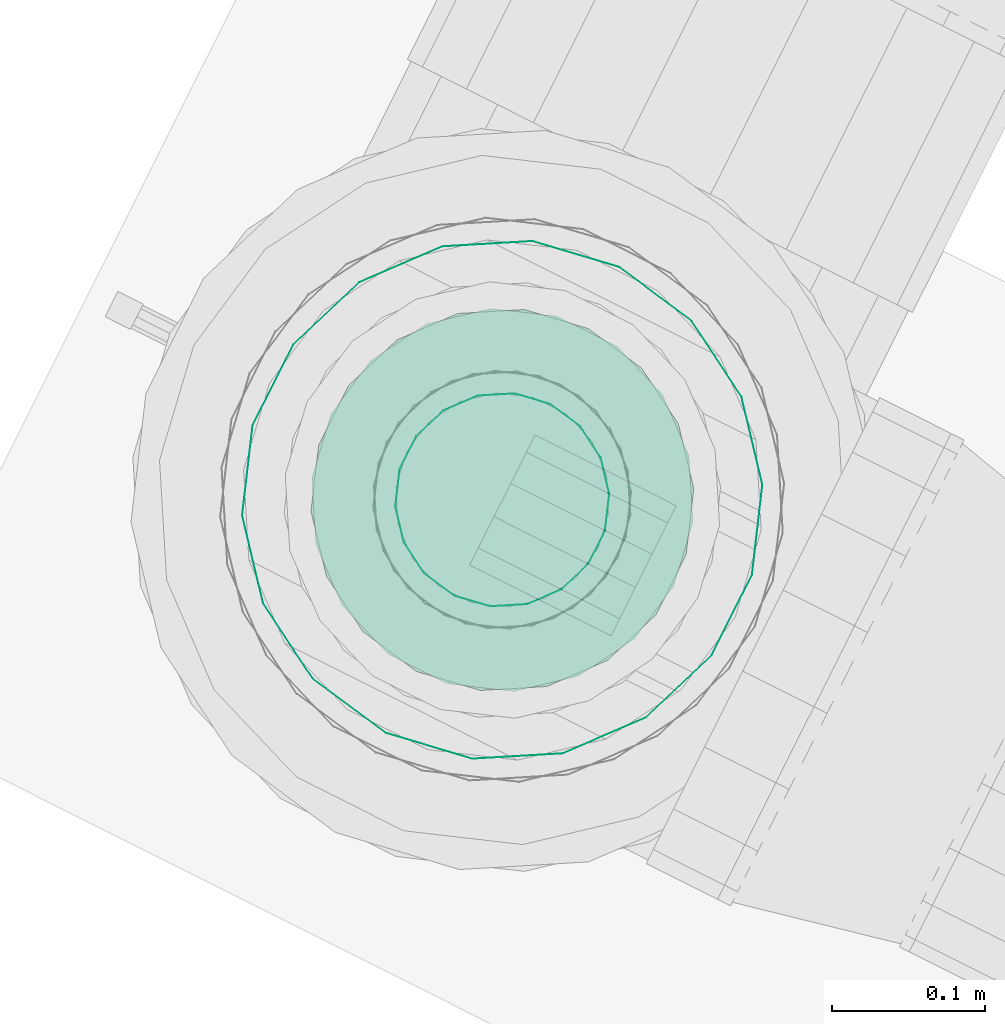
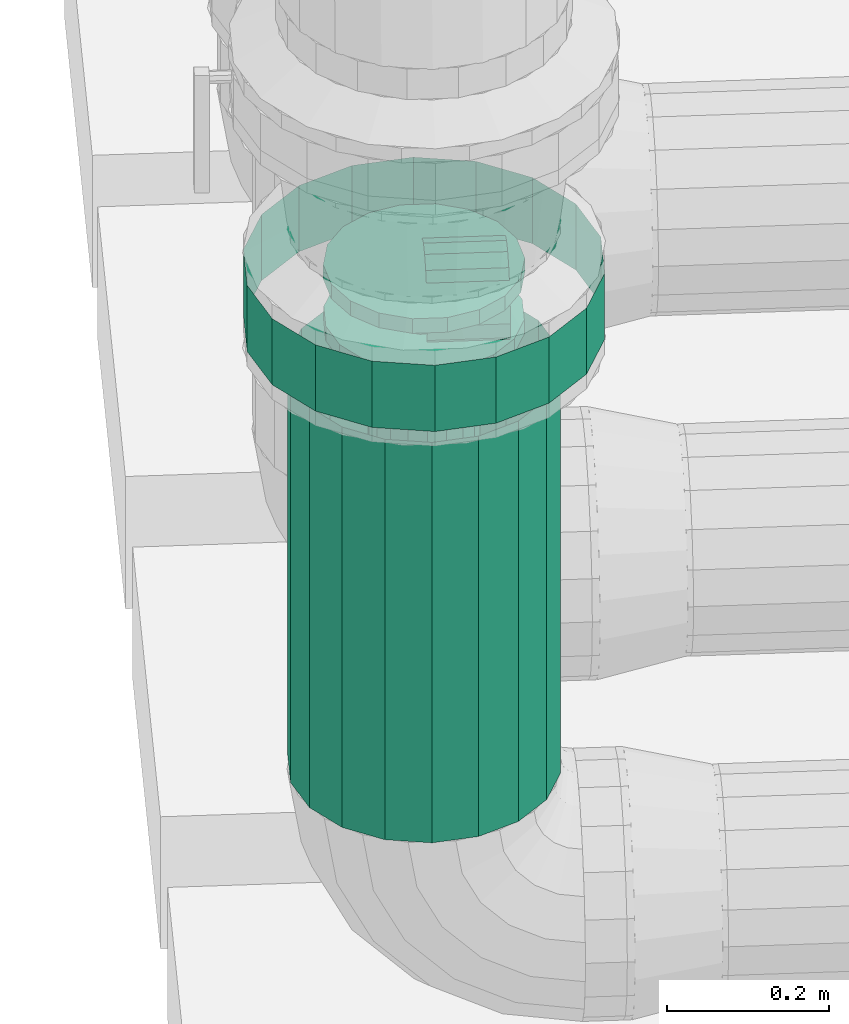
# One storey, part 97 of 152: 1 flow controller, 1 flow segment.
"""IFC2X3 building model written with IfcOpenShell, lengths in metres."""

from ifc_helpers import new_model, si_unit, derived_unit, direction, frame, origin, place, context, subcontext, project, spatial, face_set, surface_model, source, transform, mapped, material, type_object, type_shapes, element, save


model = new_model("IFC2X3")

# Units and contexts
model_context = context("Model", 3, precision=5.2338327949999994e-05, world=origin(), true_north=direction((0.0, 1.0)))
body_context = subcontext(model_context, "Body", "Model", "MODEL_VIEW")
ifc_project = project(units=[si_unit("LENGTHUNIT", "METRE"), si_unit("AREAUNIT", "SQUARE_METRE"), si_unit("VOLUMEUNIT", "CUBIC_METRE"), si_unit("MASSUNIT", "GRAM", prefix="KILO"), si_unit("PLANEANGLEUNIT", "RADIAN"), derived_unit("THERMALTRANSMITTANCEUNIT", [(si_unit("MASSUNIT", "GRAM", prefix="KILO"), 1), (si_unit("THERMODYNAMICTEMPERATUREUNIT", "KELVIN"), -1), (si_unit("TIMEUNIT", "SECOND"), -3)])], contexts=[model_context])

# Site, building, storey
site_placement = place(None, frame((0.0, 0.0, 0.0), z_axis=(0.0, 0.0, 1.0), x_axis=(0.8939966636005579, -0.4480736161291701, 0.0)))
site = spatial("IfcSite", under=ifc_project, at=site_placement, Name="Default", CompositionType="ELEMENT")
building_placement = place(site_placement, origin())
building = spatial("IfcBuilding", under=site, at=building_placement, CompositionType="ELEMENT")
storey_placement = place(building_placement, frame((0.0, 0.0, 2.7499999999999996)))
storey = spatial("IfcBuildingStorey", under=building, at=storey_placement, Name="1. Obergeschoss", CompositionType="ELEMENT", Elevation=2.7499999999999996)

# Flow controller
ifc_material = material(Name="IfcSurfaceStyle #9317")
distribution_element_type_1 = type_object("IfcDistributionElementType", Name="Rückschlagklappe 237093:Rückschlagklappe 237093", material=ifc_material)
shared_shape_1 = source(origin(), body_context, "Body", "SurfaceModel", [
    surface_model("IfcFaceBasedSurfaceModel", [(9.625770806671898, 5.981787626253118, 4.175071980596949), (9.583018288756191, 5.974249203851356, 4.175071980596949), (9.583018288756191, 5.974249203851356, 4.1970719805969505), (9.625770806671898, 5.981787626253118, 4.1970719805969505), (9.545422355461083, 5.952543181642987, 4.175071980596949), (9.545422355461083, 5.952543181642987, 4.1970719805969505), (9.517517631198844, 5.919287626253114, 4.175071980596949), (9.517517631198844, 5.919287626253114, 4.1970719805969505), (9.502669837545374, 5.87849364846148, 4.175071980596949), (9.502669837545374, 5.87849364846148, 4.1970719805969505), (9.502669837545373, 5.8350816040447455, 4.175071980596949), (9.502669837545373, 5.8350816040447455, 4.1970719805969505), (9.517517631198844, 5.794287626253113, 4.175071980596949), (9.517517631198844, 5.794287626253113, 4.1970719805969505), (9.545422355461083, 5.7610320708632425, 4.175071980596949), (9.545422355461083, 5.7610320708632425, 4.1970719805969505), (9.583018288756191, 5.739326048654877, 4.175071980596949), (9.583018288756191, 5.739326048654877, 4.1970719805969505), (9.6257708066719, 5.7317876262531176, 4.175071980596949), (9.6257708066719, 5.7317876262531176, 4.1970719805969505), (9.668523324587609, 5.73932604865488, 4.175071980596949), (9.668523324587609, 5.73932604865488, 4.1970719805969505), (9.706119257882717, 5.761032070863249, 4.175071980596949), (9.706119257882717, 5.761032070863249, 4.1970719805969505), (9.734023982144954, 5.794287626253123, 4.175071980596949), (9.734023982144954, 5.794287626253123, 4.1970719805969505), (9.748871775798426, 5.835081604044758, 4.175071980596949), (9.748871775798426, 5.835081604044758, 4.1970719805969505), (9.748871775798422, 5.8784936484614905, 4.175071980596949), (9.748871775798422, 5.8784936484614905, 4.1970719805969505), (9.734023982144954, 5.919287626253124, 4.175071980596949), (9.734023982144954, 5.919287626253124, 4.1970719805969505), (9.706119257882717, 5.952543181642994, 4.175071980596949), (9.706119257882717, 5.952543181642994, 4.1970719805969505), (9.66852332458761, 5.97424920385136, 4.175071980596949), (9.66852332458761, 5.97424920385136, 4.1970719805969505), (9.625770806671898, 5.856787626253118, 4.175071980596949), (9.625770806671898, 5.856787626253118, 4.19707198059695), (9.579204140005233, 5.8567876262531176, 4.1970719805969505), (9.582012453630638, 5.840860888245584, 4.1970719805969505), (9.560133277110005, 5.832897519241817, 4.215738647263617), (9.5559208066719, 5.856787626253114, 4.215738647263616), (9.590098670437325, 5.826855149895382, 4.19707198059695), (9.572262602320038, 5.811888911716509, 4.215738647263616), (9.602487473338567, 5.81645970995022, 4.1970719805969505), (9.5908458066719, 5.796295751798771, 4.215738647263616), (9.61768458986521, 5.810928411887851, 4.1970719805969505), (9.613641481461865, 5.7879988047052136, 4.215738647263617), (9.633857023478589, 5.810928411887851, 4.1970719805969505), (9.637900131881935, 5.7879988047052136, 4.215738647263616), (9.649054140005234, 5.816459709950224, 4.1970719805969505), (9.6606958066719, 5.796295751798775, 4.215738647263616), (9.661442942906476, 5.826855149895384, 4.1970719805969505), (9.67927901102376, 5.811888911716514, 4.215738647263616), (9.669529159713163, 5.840860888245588, 4.1970719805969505), (9.691408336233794, 5.832897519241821, 4.215738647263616), (9.672337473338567, 5.856787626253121, 4.1970719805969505), (9.6956208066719, 5.856787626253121, 4.215738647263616), (9.669529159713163, 5.872714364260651, 4.1970719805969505), (9.691408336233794, 5.880677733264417, 4.215738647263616), (9.661442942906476, 5.886720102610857, 4.19707198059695), (9.67927901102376, 5.901686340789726, 4.215738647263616), (9.649054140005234, 5.897115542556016, 4.19707198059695), (9.660695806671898, 5.917279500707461, 4.215738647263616), (9.633857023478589, 5.902646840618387, 4.1970719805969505), (9.637900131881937, 5.925576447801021, 4.215738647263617), (9.617684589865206, 5.902646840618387, 4.1970719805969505), (9.613641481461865, 5.925576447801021, 4.215738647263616), (9.602487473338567, 5.897115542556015, 4.19707198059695), (9.590845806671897, 5.9172795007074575, 4.215738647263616), (9.590098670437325, 5.8867201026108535, 4.19707198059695), (9.572262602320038, 5.901686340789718, 4.215738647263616), (9.582012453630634, 5.872714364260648, 4.1970719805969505), (9.560133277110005, 5.8806777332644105, 4.215738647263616), (9.6257708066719, 5.926637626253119, 4.215738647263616), (9.601880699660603, 5.922425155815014, 4.215738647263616), (9.601880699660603, 5.922425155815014, 4.234405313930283), (9.6257708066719, 5.926637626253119, 4.234405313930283), (9.580872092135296, 5.910295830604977, 4.215738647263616), (9.580872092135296, 5.910295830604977, 4.234405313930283), (9.565278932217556, 5.891712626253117, 4.215738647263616), (9.565278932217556, 5.891712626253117, 4.234405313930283), (9.556981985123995, 5.868916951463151, 4.215738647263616), (9.556981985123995, 5.868916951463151, 4.234405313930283), (9.556981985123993, 5.84465830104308, 4.215738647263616), (9.556981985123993, 5.84465830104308, 4.234405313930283), (9.565278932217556, 5.8218626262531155, 4.215738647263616), (9.565278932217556, 5.8218626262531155, 4.234405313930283), (9.580872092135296, 5.803279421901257, 4.215738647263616), (9.580872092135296, 5.803279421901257, 4.234405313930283), (9.601880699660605, 5.791150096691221, 4.215738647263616), (9.601880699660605, 5.791150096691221, 4.234405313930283), (9.6257708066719, 5.786937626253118, 4.215738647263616), (9.6257708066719, 5.786937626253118, 4.234405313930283), (9.6496609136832, 5.791150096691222, 4.215738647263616), (9.6496609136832, 5.791150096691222, 4.234405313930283), (9.670669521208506, 5.80327942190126, 4.215738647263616), (9.670669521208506, 5.80327942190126, 4.234405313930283), (9.68626268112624, 5.821862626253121, 4.215738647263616), (9.68626268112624, 5.821862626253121, 4.234405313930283), (9.694559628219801, 5.8446583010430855, 4.215738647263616), (9.694559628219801, 5.8446583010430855, 4.234405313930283), (9.694559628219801, 5.868916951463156, 4.215738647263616), (9.694559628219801, 5.868916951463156, 4.234405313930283), (9.686262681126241, 5.891712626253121, 4.215738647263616), (9.686262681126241, 5.891712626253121, 4.234405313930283), (9.670669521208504, 5.910295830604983, 4.215738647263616), (9.670669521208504, 5.910295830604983, 4.234405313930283), (9.6496609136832, 5.922425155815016, 4.215738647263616), (9.6496609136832, 5.922425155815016, 4.234405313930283), (9.5559208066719, 5.856787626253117, 4.234405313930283), (9.560133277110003, 5.832897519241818, 4.234405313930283), (9.582012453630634, 5.840860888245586, 4.253071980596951), (9.579204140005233, 5.8567876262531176, 4.253071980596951), (9.572262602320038, 5.81188891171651, 4.234405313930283), (9.590098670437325, 5.826855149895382, 4.253071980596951), (9.5908458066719, 5.796295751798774, 4.234405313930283), (9.602487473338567, 5.81645970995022, 4.253071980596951), (9.613641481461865, 5.787998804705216, 4.234405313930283), (9.61768458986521, 5.810928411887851, 4.2530719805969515), (9.637900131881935, 5.787998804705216, 4.234405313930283), (9.633857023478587, 5.810928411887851, 4.253071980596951), (9.6606958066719, 5.796295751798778, 4.234405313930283), (9.649054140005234, 5.816459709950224, 4.253071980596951), (9.67927901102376, 5.811888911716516, 4.234405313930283), (9.661442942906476, 5.826855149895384, 4.253071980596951), (9.691408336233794, 5.832897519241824, 4.234405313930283), (9.669529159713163, 5.840860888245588, 4.253071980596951), (9.695620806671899, 5.856787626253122, 4.234405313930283), (9.672337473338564, 5.856787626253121, 4.2530719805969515), (9.691408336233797, 5.88067773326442, 4.234405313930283), (9.669529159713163, 5.872714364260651, 4.2530719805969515), (9.67927901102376, 5.901686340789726, 4.234405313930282), (9.661442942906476, 5.886720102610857, 4.25307198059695), (9.660695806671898, 5.917279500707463, 4.234405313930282), (9.649054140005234, 5.897115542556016, 4.25307198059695), (9.637900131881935, 5.9255764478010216, 4.234405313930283), (9.633857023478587, 5.902646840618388, 4.2530719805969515), (9.613641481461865, 5.9255764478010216, 4.234405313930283), (9.617684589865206, 5.902646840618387, 4.253071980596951), (9.590845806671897, 5.91727950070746, 4.234405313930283), (9.602487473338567, 5.897115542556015, 4.2530719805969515), (9.572262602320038, 5.901686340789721, 4.234405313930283), (9.590098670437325, 5.8867201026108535, 4.253071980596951), (9.560133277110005, 5.880677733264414, 4.234405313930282), (9.582012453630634, 5.8727143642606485, 4.25307198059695), (9.6257708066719, 5.926637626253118, 4.22507198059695), (9.6257708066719, 5.922425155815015, 4.248962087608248), (9.728770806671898, 5.92242515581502, 4.248962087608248), (9.728770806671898, 5.9266376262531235, 4.22507198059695), (9.625770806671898, 5.910295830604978, 4.269970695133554), (9.728770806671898, 5.910295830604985, 4.269970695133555), (9.625770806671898, 5.89171262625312, 4.285563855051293), (9.728770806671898, 5.891712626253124, 4.285563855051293), (9.6257708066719, 5.868916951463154, 4.293860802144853), (9.728770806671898, 5.8689169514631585, 4.293860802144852), (9.625770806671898, 5.844658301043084, 4.293860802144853), (9.728770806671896, 5.844658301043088, 4.293860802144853), (9.6257708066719, 5.821862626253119, 4.285563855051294), (9.728770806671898, 5.8218626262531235, 4.285563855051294), (9.625770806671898, 5.803279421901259, 4.269970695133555), (9.728770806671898, 5.803279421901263, 4.269970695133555), (9.625770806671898, 5.791150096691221, 4.248962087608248), (9.728770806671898, 5.791150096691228, 4.248962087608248), (9.6257708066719, 5.786937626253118, 4.22507198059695), (9.728770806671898, 5.786937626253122, 4.22507198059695), (9.625770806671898, 5.791150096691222, 4.201181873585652), (9.728770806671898, 5.791150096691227, 4.201181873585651), (9.625770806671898, 5.80327942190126, 4.180173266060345), (9.728770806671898, 5.803279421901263, 4.180173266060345), (9.6257708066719, 5.821862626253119, 4.164580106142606), (9.728770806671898, 5.8218626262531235, 4.164580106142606), (9.625770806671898, 5.844658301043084, 4.156283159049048), (9.728770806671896, 5.844658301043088, 4.156283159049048), (9.6257708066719, 5.868916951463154, 4.156283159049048), (9.728770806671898, 5.8689169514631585, 4.156283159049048), (9.625770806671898, 5.89171262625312, 4.164580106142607), (9.728770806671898, 5.891712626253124, 4.164580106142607), (9.625770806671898, 5.910295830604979, 4.180173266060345), (9.728770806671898, 5.910295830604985, 4.180173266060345), (9.6257708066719, 5.922425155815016, 4.201181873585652), (9.728770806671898, 5.92242515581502, 4.201181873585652), (9.728770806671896, 5.856787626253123, 4.22507198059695), (9.750770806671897, 5.856787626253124, 4.25307198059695), (9.743232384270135, 5.899540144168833, 4.25307198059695), (9.743232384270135, 5.899540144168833, 4.27507198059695), (9.750770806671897, 5.856787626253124, 4.27507198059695), (9.72152636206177, 5.937136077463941, 4.25307198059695), (9.72152636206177, 5.937136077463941, 4.27507198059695), (9.688270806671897, 5.965040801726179, 4.25307198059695), (9.688270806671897, 5.965040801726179, 4.27507198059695), (9.647476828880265, 5.979888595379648, 4.25307198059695), (9.647476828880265, 5.979888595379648, 4.27507198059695), (9.604064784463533, 5.979888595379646, 4.25307198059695), (9.604064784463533, 5.979888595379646, 4.27507198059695), (9.5632708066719, 5.965040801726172, 4.25307198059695), (9.5632708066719, 5.965040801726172, 4.27507198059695), (9.530015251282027, 5.937136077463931, 4.25307198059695), (9.530015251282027, 5.937136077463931, 4.27507198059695), (9.508309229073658, 5.8995401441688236, 4.25307198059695), (9.508309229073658, 5.8995401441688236, 4.27507198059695), (9.5007708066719, 5.856787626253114, 4.25307198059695), (9.5007708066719, 5.856787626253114, 4.27507198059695), (9.508309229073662, 5.814035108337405, 4.25307198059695), (9.508309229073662, 5.814035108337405, 4.27507198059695), (9.530015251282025, 5.776439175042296, 4.25307198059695), (9.530015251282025, 5.776439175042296, 4.27507198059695), (9.5632708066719, 5.7485344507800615, 4.25307198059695), (9.5632708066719, 5.7485344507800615, 4.27507198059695), (9.604064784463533, 5.73368665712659, 4.25307198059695), (9.604064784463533, 5.73368665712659, 4.27507198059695), (9.647476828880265, 5.733686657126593, 4.25307198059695), (9.647476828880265, 5.733686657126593, 4.27507198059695), (9.6882708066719, 5.748534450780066, 4.25307198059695), (9.6882708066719, 5.748534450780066, 4.27507198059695), (9.72152636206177, 5.776439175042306, 4.25307198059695), (9.72152636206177, 5.776439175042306, 4.27507198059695), (9.743232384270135, 5.814035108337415, 4.25307198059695), (9.743232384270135, 5.814035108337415, 4.27507198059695), (9.625770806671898, 5.856787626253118, 4.25307198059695), (9.625770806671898, 5.856787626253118, 4.275071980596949), (9.625770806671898, 6.081787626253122, 4.175071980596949), (9.548816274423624, 6.068218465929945, 4.175071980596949), (9.548816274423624, 6.068218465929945, 4.27507198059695), (9.625770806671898, 6.081787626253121, 4.27507198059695), (9.481143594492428, 6.029147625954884, 4.175071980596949), (9.481143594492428, 6.029147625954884, 4.27507198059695), (9.4309150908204, 5.969287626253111, 4.175071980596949), (9.4309150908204, 5.969287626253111, 4.27507198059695), (9.404189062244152, 5.8958584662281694, 4.175071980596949), (9.404189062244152, 5.8958584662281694, 4.27507198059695), (9.404189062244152, 5.8177167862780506, 4.175071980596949), (9.404189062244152, 5.8177167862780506, 4.27507198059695), (9.430915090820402, 5.744287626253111, 4.175071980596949), (9.430915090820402, 5.744287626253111, 4.27507198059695), (9.481143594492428, 5.684427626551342, 4.175071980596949), (9.481143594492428, 5.684427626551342, 4.27507198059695), (9.548816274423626, 5.645356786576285, 4.175071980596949), (9.548816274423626, 5.645356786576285, 4.27507198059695), (9.6257708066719, 5.631787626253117, 4.175071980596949), (9.6257708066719, 5.631787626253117, 4.27507198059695), (9.702725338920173, 5.645356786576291, 4.175071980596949), (9.702725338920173, 5.645356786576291, 4.27507198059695), (9.770398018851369, 5.684427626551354, 4.175071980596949), (9.770398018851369, 5.684427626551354, 4.27507198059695), (9.820626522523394, 5.744287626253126, 4.175071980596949), (9.820626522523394, 5.744287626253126, 4.27507198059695), (9.847352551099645, 5.817716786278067, 4.175071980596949), (9.847352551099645, 5.817716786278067, 4.27507198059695), (9.847352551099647, 5.895858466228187, 4.175071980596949), (9.847352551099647, 5.895858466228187, 4.27507198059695), (9.820626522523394, 5.969287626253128, 4.175071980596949), (9.820626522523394, 5.969287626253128, 4.27507198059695), (9.77039801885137, 6.029147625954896, 4.175071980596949), (9.77039801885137, 6.029147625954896, 4.27507198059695), (9.702725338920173, 6.068218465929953, 4.175071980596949), (9.702725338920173, 6.068218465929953, 4.27507198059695)], [face_set([[[0, 1, 2, 3]], [[1, 4, 5, 2]], [[4, 6, 7, 5]], [[6, 8, 9, 7]], [[8, 10, 11, 9]], [[10, 12, 13, 11]], [[12, 14, 15, 13]], [[14, 16, 17, 15]], [[16, 18, 19, 17]], [[18, 20, 21, 19]], [[20, 22, 23, 21]], [[22, 24, 25, 23]], [[24, 26, 27, 25]], [[26, 28, 29, 27]], [[28, 30, 31, 29]], [[30, 32, 33, 31]], [[32, 34, 35, 33]], [[34, 0, 3, 35]], [[36, 1, 0]], [[36, 4, 1]], [[36, 6, 4]], [[36, 8, 6]], [[36, 10, 8]], [[36, 12, 10]], [[36, 14, 12]], [[36, 16, 14]], [[36, 18, 16]], [[36, 20, 18]], [[36, 22, 20]], [[36, 24, 22]], [[36, 26, 24]], [[36, 28, 26]], [[36, 30, 28]], [[36, 32, 30]], [[36, 34, 32]], [[36, 0, 34]], [[37, 35, 3]], [[37, 33, 35]], [[37, 31, 33]], [[37, 29, 31]], [[37, 27, 29]], [[37, 25, 27]], [[37, 23, 25]], [[37, 21, 23]], [[37, 19, 21]], [[37, 17, 19]], [[37, 15, 17]], [[37, 13, 15]], [[37, 11, 13]], [[37, 9, 11]], [[37, 7, 9]], [[37, 5, 7]], [[37, 2, 5]], [[37, 3, 2]], [[38, 39, 40, 41]], [[39, 42, 43, 40]], [[42, 44, 45, 43]], [[44, 46, 47, 45]], [[46, 48, 49, 47]], [[48, 50, 51, 49]], [[50, 52, 53, 51]], [[52, 54, 55, 53]], [[54, 56, 57, 55]], [[56, 58, 59, 57]], [[58, 60, 61, 59]], [[60, 62, 63, 61]], [[62, 64, 65, 63]], [[64, 66, 67, 65]], [[66, 68, 69, 67]], [[68, 70, 71, 69]], [[70, 72, 73, 71]], [[72, 38, 41, 73]], [[74, 75, 76, 77]], [[75, 78, 79, 76]], [[78, 80, 81, 79]], [[80, 82, 83, 81]], [[82, 84, 85, 83]], [[84, 86, 87, 85]], [[86, 88, 89, 87]], [[88, 90, 91, 89]], [[90, 92, 93, 91]], [[92, 94, 95, 93]], [[94, 96, 97, 95]], [[96, 98, 99, 97]], [[98, 100, 101, 99]], [[100, 102, 103, 101]], [[102, 104, 105, 103]], [[104, 106, 107, 105]], [[106, 108, 109, 107]], [[108, 74, 77, 109]], [[110, 111, 112, 113]], [[111, 114, 115, 112]], [[114, 116, 117, 115]], [[116, 118, 119, 117]], [[118, 120, 121, 119]], [[120, 122, 123, 121]], [[122, 124, 125, 123]], [[124, 126, 127, 125]], [[126, 128, 129, 127]], [[128, 130, 131, 129]], [[130, 132, 133, 131]], [[132, 134, 135, 133]], [[134, 136, 137, 135]], [[136, 138, 139, 137]], [[138, 140, 141, 139]], [[140, 142, 143, 141]], [[142, 144, 145, 143]], [[144, 110, 113, 145]], [[146, 147, 148, 149]], [[147, 150, 151, 148]], [[150, 152, 153, 151]], [[152, 154, 155, 153]], [[154, 156, 157, 155]], [[156, 158, 159, 157]], [[158, 160, 161, 159]], [[160, 162, 163, 161]], [[162, 164, 165, 163]], [[164, 166, 167, 165]], [[166, 168, 169, 167]], [[168, 170, 171, 169]], [[170, 172, 173, 171]], [[172, 174, 175, 173]], [[174, 176, 177, 175]], [[176, 178, 179, 177]], [[178, 180, 181, 179]], [[180, 146, 149, 181]], [[182, 181, 149]], [[182, 179, 181]], [[182, 177, 179]], [[182, 175, 177]], [[182, 173, 175]], [[182, 171, 173]], [[182, 169, 171]], [[182, 167, 169]], [[182, 165, 167]], [[182, 163, 165]], [[182, 161, 163]], [[182, 159, 161]], [[182, 157, 159]], [[182, 155, 157]], [[182, 153, 155]], [[182, 151, 153]], [[182, 148, 151]], [[182, 149, 148]], [[183, 184, 185, 186]], [[184, 187, 188, 185]], [[187, 189, 190, 188]], [[189, 191, 192, 190]], [[191, 193, 194, 192]], [[193, 195, 196, 194]], [[195, 197, 198, 196]], [[197, 199, 200, 198]], [[199, 201, 202, 200]], [[201, 203, 204, 202]], [[203, 205, 206, 204]], [[205, 207, 208, 206]], [[207, 209, 210, 208]], [[209, 211, 212, 210]], [[211, 213, 214, 212]], [[213, 215, 216, 214]], [[215, 217, 218, 216]], [[217, 183, 186, 218]], [[219, 184, 183]], [[219, 187, 184]], [[219, 189, 187]], [[219, 191, 189]], [[219, 193, 191]], [[219, 195, 193]], [[219, 197, 195]], [[219, 199, 197]], [[219, 201, 199]], [[219, 203, 201]], [[219, 205, 203]], [[219, 207, 205]], [[219, 209, 207]], [[219, 211, 209]], [[219, 213, 211]], [[219, 215, 213]], [[219, 217, 215]], [[219, 183, 217]], [[220, 218, 186]], [[220, 216, 218]], [[220, 214, 216]], [[220, 212, 214]], [[220, 210, 212]], [[220, 208, 210]], [[220, 206, 208]], [[220, 204, 206]], [[220, 202, 204]], [[220, 200, 202]], [[220, 198, 200]], [[220, 196, 198]], [[220, 194, 196]], [[220, 192, 194]], [[220, 190, 192]], [[220, 188, 190]], [[220, 185, 188]], [[220, 186, 185]], [[221, 222, 223, 224]], [[222, 225, 226, 223]], [[225, 227, 228, 226]], [[227, 229, 230, 228]], [[229, 231, 232, 230]], [[231, 233, 234, 232]], [[233, 235, 236, 234]], [[235, 237, 238, 236]], [[237, 239, 240, 238]], [[239, 241, 242, 240]], [[241, 243, 244, 242]], [[243, 245, 246, 244]], [[245, 247, 248, 246]], [[247, 249, 250, 248]], [[249, 251, 252, 250]], [[251, 253, 254, 252]], [[253, 255, 256, 254]], [[255, 221, 224, 256]]])]),
])
type_shapes(distribution_element_type_1, [shared_shape_1])
flow_controller_placement = place(storey_placement, frame((0.0, 0.0, -2.7499999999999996)))
element("IfcFlowController", 1, at=flow_controller_placement, inside=storey, type_object=distribution_element_type_1, material=ifc_material, Name="Rückschlagklappe", ObjectType="Rückschlagklappe", context=body_context, shape_type="MappedRepresentation", body=[
    mapped(shared_shape_1, transform((0.0, 0.0, 0.0), scale=1.0)),
])

# Flow segment
distribution_element_type_2 = type_object("IfcDistributionElementType", Name="Stahlrohr nach DIN 2448 237116:Stahlrohr nach DIN 2448 237116", material=ifc_material)
shared_shape_2 = source(origin(), body_context, "Body", "SurfaceModel", [
    surface_model("IfcFaceBasedSurfaceModel", [(9.625770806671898, 5.92663762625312, 3.5151547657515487), (9.601880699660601, 5.922425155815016, 3.5151547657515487), (9.601880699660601, 5.922425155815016, 4.120071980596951), (9.625770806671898, 5.92663762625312, 4.120071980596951), (9.580872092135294, 5.910295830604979, 3.5151547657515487), (9.580872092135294, 5.910295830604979, 4.120071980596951), (9.565278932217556, 5.8917126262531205, 3.5151547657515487), (9.565278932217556, 5.89171262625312, 4.120071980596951), (9.556981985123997, 5.868916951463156, 3.5151547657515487), (9.556981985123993, 5.868916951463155, 4.120071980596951), (9.556981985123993, 5.8446583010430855, 3.5151547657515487), (9.556981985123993, 5.8446583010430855, 4.120071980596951), (9.565278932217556, 5.82186262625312, 3.5151547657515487), (9.565278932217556, 5.82186262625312, 4.120071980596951), (9.580872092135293, 5.803279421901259, 3.5151547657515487), (9.580872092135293, 5.803279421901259, 4.120071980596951), (9.601880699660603, 5.791150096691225, 3.5151547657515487), (9.601880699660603, 5.791150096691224, 4.120071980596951), (9.6257708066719, 5.7869376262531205, 3.5151547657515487), (9.625770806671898, 5.7869376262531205, 4.120071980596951), (9.649660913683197, 5.791150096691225, 3.5151547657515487), (9.6496609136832, 5.791150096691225, 4.120071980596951), (9.670669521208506, 5.803279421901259, 3.5151547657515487), (9.670669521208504, 5.803279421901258, 4.120071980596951), (9.68626268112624, 5.821862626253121, 3.5151547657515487), (9.68626268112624, 5.82186262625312, 4.120071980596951), (9.694559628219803, 5.844658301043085, 3.5151547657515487), (9.694559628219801, 5.844658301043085, 4.120071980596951), (9.694559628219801, 5.868916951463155, 3.5151547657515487), (9.6945596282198, 5.868916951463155, 4.120071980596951), (9.686262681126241, 5.891712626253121, 3.5151547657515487), (9.686262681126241, 5.8917126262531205, 4.120071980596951), (9.670669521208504, 5.910295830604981, 3.5151547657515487), (9.670669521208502, 5.910295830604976, 4.120071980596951), (9.649660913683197, 5.922425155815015, 3.5151547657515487), (9.649660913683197, 5.922425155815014, 4.120071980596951), (9.625770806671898, 6.026637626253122, 3.5151547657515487), (9.56767868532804, 6.01639441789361, 3.5151547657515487), (9.567678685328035, 6.016394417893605, 4.120071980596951), (9.625770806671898, 6.026637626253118, 4.120071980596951), (9.516593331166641, 5.98690027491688, 3.5151547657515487), (9.516593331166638, 5.986900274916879, 4.120071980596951), (9.47867639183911, 5.941712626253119, 3.5151547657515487), (9.47867639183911, 5.941712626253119, 4.120071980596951), (9.458501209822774, 5.886281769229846, 3.5151547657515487), (9.458501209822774, 5.886281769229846, 4.120071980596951), (9.458501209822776, 5.827293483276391, 3.5151547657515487), (9.458501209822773, 5.827293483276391, 4.120071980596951), (9.47867639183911, 5.771862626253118, 3.5151547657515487), (9.47867639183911, 5.771862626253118, 4.120071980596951), (9.516593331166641, 5.726674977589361, 3.5151547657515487), (9.516593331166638, 5.7266749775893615, 4.120071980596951), (9.567678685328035, 5.697180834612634, 3.5151547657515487), (9.567678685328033, 5.697180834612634, 4.120071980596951), (9.6257708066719, 5.686937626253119, 3.5151547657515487), (9.625770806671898, 5.686937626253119, 4.120071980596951), (9.683862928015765, 5.697180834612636, 3.5151547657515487), (9.683862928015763, 5.6971808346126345, 4.120071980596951), (9.73494828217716, 5.7266749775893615, 3.5151547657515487), (9.73494828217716, 5.726674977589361, 4.120071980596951), (9.772865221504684, 5.771862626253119, 3.5151547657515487), (9.772865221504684, 5.771862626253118, 4.120071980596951), (9.793040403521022, 5.827293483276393, 3.5151547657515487), (9.79304040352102, 5.827293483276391, 4.120071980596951), (9.79304040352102, 5.886281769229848, 3.5151547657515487), (9.793040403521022, 5.886281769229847, 4.120071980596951), (9.772865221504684, 5.941712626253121, 3.5151547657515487), (9.772865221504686, 5.941712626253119, 4.120071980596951), (9.734948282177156, 5.986900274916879, 3.5151547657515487), (9.734948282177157, 5.986900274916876, 4.120071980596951), (9.683862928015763, 6.016394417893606, 3.5151547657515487), (9.683862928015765, 6.016394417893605, 4.120071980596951)], [face_set([[[0, 1, 2, 3]], [[1, 4, 5, 2]], [[4, 6, 7, 5]], [[6, 8, 9, 7]], [[8, 10, 11, 9]], [[10, 12, 13, 11]], [[12, 14, 15, 13]], [[14, 16, 17, 15]], [[16, 18, 19, 17]], [[18, 20, 21, 19]], [[20, 22, 23, 21]], [[22, 24, 25, 23]], [[24, 26, 27, 25]], [[26, 28, 29, 27]], [[28, 30, 31, 29]], [[30, 32, 33, 31]], [[32, 34, 35, 33]], [[34, 0, 3, 35]], [[36, 37, 38, 39]], [[37, 40, 41, 38]], [[40, 42, 43, 41]], [[42, 44, 45, 43]], [[44, 46, 47, 45]], [[46, 48, 49, 47]], [[48, 50, 51, 49]], [[50, 52, 53, 51]], [[52, 54, 55, 53]], [[54, 56, 57, 55]], [[56, 58, 59, 57]], [[58, 60, 61, 59]], [[60, 62, 63, 61]], [[62, 64, 65, 63]], [[64, 66, 67, 65]], [[66, 68, 69, 67]], [[68, 70, 71, 69]], [[70, 36, 39, 71]]])]),
])
type_shapes(distribution_element_type_2, [shared_shape_2])
flow_segment_placement = place(storey_placement, frame((0.0, 0.0, -2.7499999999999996)))
element("IfcFlowSegment", 2, at=flow_segment_placement, inside=storey, type_object=distribution_element_type_2, material=ifc_material, Name="Stahlrohr nach DIN 2448", ObjectType="Stahlrohr nach DIN 2448", context=body_context, shape_type="MappedRepresentation", body=[
    mapped(shared_shape_2, transform((0.0, 0.0, 0.0), scale=1.0)),
])

save(model, "model.ifc")
